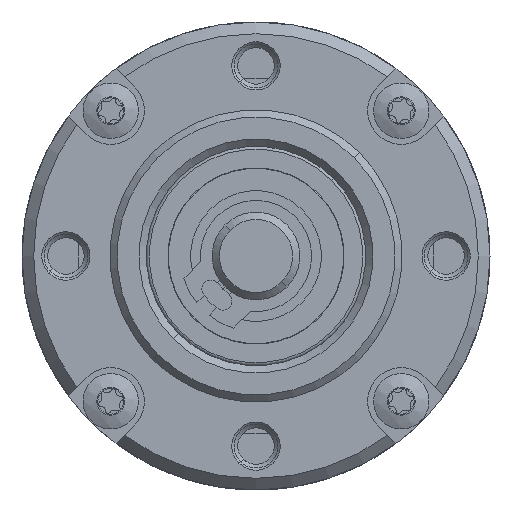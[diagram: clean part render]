
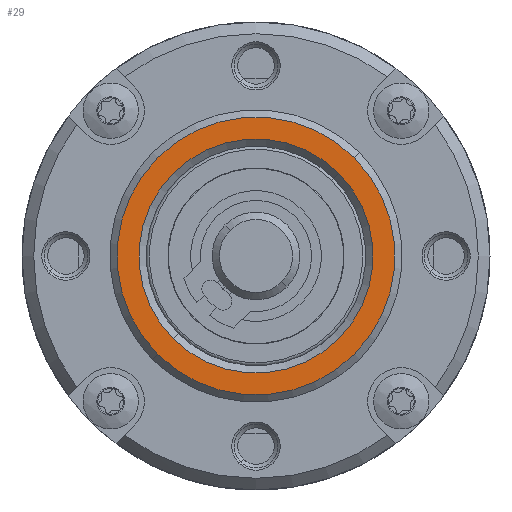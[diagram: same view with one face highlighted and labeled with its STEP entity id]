
A CAD part, left-side view. The second image highlights one B-rep face of the part: STEP entity #29.
In plain terms, the highlighted planar face has unit normal (-1, 0, 0) as drawn and (1, 0, 0) by its records, which use the part's own axes.
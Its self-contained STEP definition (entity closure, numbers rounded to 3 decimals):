
#29 = ADVANCED_FACE ( 'NONE', ( #25634, #43141 ), #38603, .T. ) ;
#1581 = DIRECTION ( 'NONE',  ( 0., 0., -1. ) ) ;
#3066 = CIRCLE ( 'NONE', #62367, 9.5 ) ;
#3821 = ORIENTED_EDGE ( 'NONE', *, *, #11458, .T. ) ;
#3963 = VERTEX_POINT ( 'NONE', #57916 ) ;
#7802 = CARTESIAN_POINT ( 'NONE',  ( 9.5, 0., 0. ) ) ;
#8884 = ORIENTED_EDGE ( 'NONE', *, *, #65578, .F. ) ;
#9382 = DIRECTION ( 'NONE',  ( -1., 0., 0. ) ) ;
#11458 = EDGE_CURVE ( 'NONE', #17703, #3963, #43575, .T. ) ;
#15670 = CIRCLE ( 'NONE', #42786, 9.5 ) ;
#16113 = ORIENTED_EDGE ( 'NONE', *, *, #43722, .T. ) ;
#17703 = VERTEX_POINT ( 'NONE', #34345 ) ;
#20533 = DIRECTION ( 'NONE',  ( -1., 0., 0. ) ) ;
#22936 = CARTESIAN_POINT ( 'NONE',  ( 9.5, 0., 9.5 ) ) ;
#25182 = EDGE_CURVE ( 'NONE', #57596, #67678, #15670, .T. ) ;
#25634 = FACE_OUTER_BOUND ( 'NONE', #52764, .T. ) ;
#34345 = CARTESIAN_POINT ( 'NONE',  ( 9.5, 0., 8. ) ) ;
#34451 = CARTESIAN_POINT ( 'NONE',  ( 9.5, 0., -9.5 ) ) ;
#37793 = DIRECTION ( 'NONE',  ( 0., 0., -1. ) ) ;
#37810 = AXIS2_PLACEMENT_3D ( 'NONE', #37869, #37858, #37793 ) ;
#37858 = DIRECTION ( 'NONE',  ( 1., 0., 0. ) ) ;
#37869 = CARTESIAN_POINT ( 'NONE',  ( 9.5, 0., 0. ) ) ;
#38603 = PLANE ( 'NONE',  #37810 ) ;
#42786 = AXIS2_PLACEMENT_3D ( 'NONE', #62423, #62199, #62063 ) ;
#42891 = CARTESIAN_POINT ( 'NONE',  ( 9.5, 0., 0. ) ) ;
#43141 = FACE_BOUND ( 'NONE', #53096, .T. ) ;
#43575 = CIRCLE ( 'NONE', #62197, 8. ) ;
#43722 = EDGE_CURVE ( 'NONE', #3963, #17703, #65869, .T. ) ;
#46950 = DIRECTION ( 'NONE',  ( -1., 0., 0. ) ) ;
#48505 = DIRECTION ( 'NONE',  ( 0., 0., -1. ) ) ;
#52764 = EDGE_LOOP ( 'NONE', ( #54547, #8884 ) ) ;
#53096 = EDGE_LOOP ( 'NONE', ( #16113, #3821 ) ) ;
#53855 = CARTESIAN_POINT ( 'NONE',  ( 9.5, 0., 0. ) ) ;
#54547 = ORIENTED_EDGE ( 'NONE', *, *, #25182, .F. ) ;
#57177 = AXIS2_PLACEMENT_3D ( 'NONE', #42891, #9382, #48505 ) ;
#57596 = VERTEX_POINT ( 'NONE', #22936 ) ;
#57916 = CARTESIAN_POINT ( 'NONE',  ( 9.5, 0., -8. ) ) ;
#59270 = DIRECTION ( 'NONE',  ( 0., 0., 1. ) ) ;
#62063 = DIRECTION ( 'NONE',  ( 0., 0., 1. ) ) ;
#62197 = AXIS2_PLACEMENT_3D ( 'NONE', #7802, #46950, #1581 ) ;
#62199 = DIRECTION ( 'NONE',  ( -1., 0., 0. ) ) ;
#62367 = AXIS2_PLACEMENT_3D ( 'NONE', #53855, #20533, #59270 ) ;
#62423 = CARTESIAN_POINT ( 'NONE',  ( 9.5, 0., 0. ) ) ;
#65578 = EDGE_CURVE ( 'NONE', #67678, #57596, #3066, .T. ) ;
#65869 = CIRCLE ( 'NONE', #57177, 8. ) ;
#67678 = VERTEX_POINT ( 'NONE', #34451 ) ;
